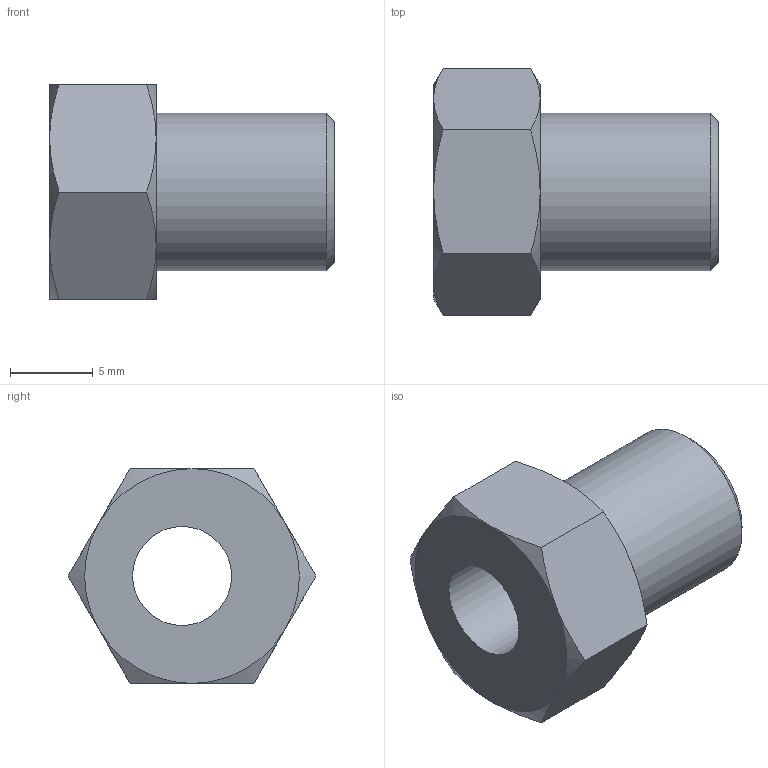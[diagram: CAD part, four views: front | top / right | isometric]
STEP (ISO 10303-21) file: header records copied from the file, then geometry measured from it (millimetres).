
FILE_DESCRIPTION((''),'2;1');
FILE_NAME('C:\Documents and Settings\土屋\My Documents\土屋移動用フォルダ\製品 (図面)\カタログ用3D\リニアガイド\VW\SB\SB2E.stp','2015-02-21T14:13:57',('y'),(''),'Autodesk Inventor 11','Autodesk Inventor 11','');
FILE_SCHEMA(('AUTOMOTIVE_DESIGN { 1 0 10303 214 1 1 1 1 }'));
Length unit declared in the file: millimetre
Products named in the file (1): SB2E
Bounding box: 17.24 x 15.01 x 13 mm (x, y, z)
Volume: 1216.2 mm3; surface area: 1151.5 mm2
Topology: 1 solids, 1 shells, 24 faces, 50 edges, 29 vertices
Faces by surface type: cone 13, plane 9, cylinder 2
Full cylindrical faces by diameter (mm): 6 x1, 9.52 x1
Entity records: 615 total; most frequent: CARTESIAN_POINT 149, ORIENTED_EDGE 94, DIRECTION 90, EDGE_CURVE 47, AXIS2_PLACEMENT_3D 42, EDGE_LOOP 30, VERTEX_POINT 29, FACE_OUTER_BOUND 24
